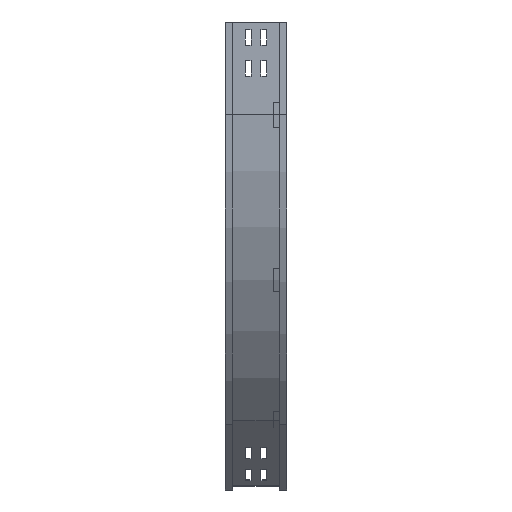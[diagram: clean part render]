
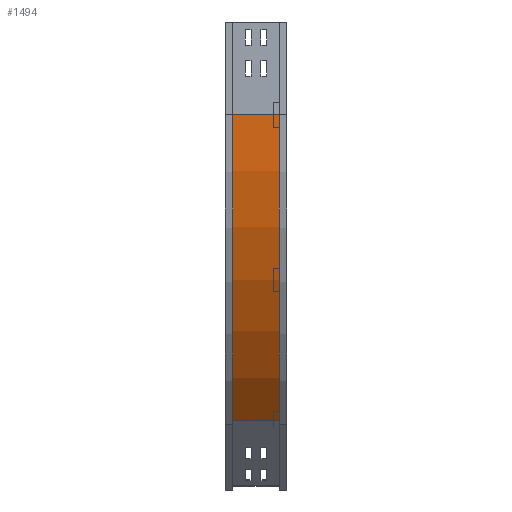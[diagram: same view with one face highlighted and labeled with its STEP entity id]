
A CAD part, left-side view. The second image highlights one B-rep face of the part: STEP entity #1494.
In plain terms, the highlighted cylindrical face has radius 700 mm (diameter 1400 mm), a partial arc.
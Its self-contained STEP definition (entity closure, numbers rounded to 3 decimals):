
#4 = ORIENTED_EDGE ( 'NONE', *, *, #1263, .F. ) ;
#14 = CARTESIAN_POINT ( 'NONE',  ( 9., 12., -150. ) ) ;
#37 = DIRECTION ( 'NONE',  ( 0., -1., 0. ) ) ;
#96 = ORIENTED_EDGE ( 'NONE', *, *, #1460, .F. ) ;
#510 = DIRECTION ( 'NONE',  ( -1., 0., 0. ) ) ;
#580 = VECTOR ( 'NONE', #1364, 1000. ) ;
#783 = CARTESIAN_POINT ( 'NONE',  ( 214.025, 88., -644.975 ) ) ;
#788 = DIRECTION ( 'NONE',  ( 0., -1., 0. ) ) ;
#1261 = CARTESIAN_POINT ( 'NONE',  ( 9., 88., -150. ) ) ;
#1263 = EDGE_CURVE ( 'NONE', #1469, #1979, #1386, .T. ) ;
#1364 = DIRECTION ( 'NONE',  ( 0., -1., 0. ) ) ;
#1386 = LINE ( 'NONE', #14, #580 ) ;
#1451 = DIRECTION ( 'NONE',  ( -1., 0., 0. ) ) ;
#1460 = EDGE_CURVE ( 'NONE', #1979, #3555, #3772, .T. ) ;
#1469 = VERTEX_POINT ( 'NONE', #1261 ) ;
#1494 = ADVANCED_FACE ( 'NONE', ( #2972 ), #1883, .T. ) ;
#1576 = ORIENTED_EDGE ( 'NONE', *, *, #3745, .T. ) ;
#1786 = CARTESIAN_POINT ( 'NONE',  ( 709., 12., -150. ) ) ;
#1838 = LINE ( 'NONE', #2564, #3737 ) ;
#1883 = CYLINDRICAL_SURFACE ( 'NONE', #1967, 700. ) ;
#1967 = AXIS2_PLACEMENT_3D ( 'NONE', #4381, #4302, #3677 ) ;
#1979 = VERTEX_POINT ( 'NONE', #4003 ) ;
#2151 = AXIS2_PLACEMENT_3D ( 'NONE', #3616, #4317, #510 ) ;
#2477 = AXIS2_PLACEMENT_3D ( 'NONE', #1786, #37, #1451 ) ;
#2564 = CARTESIAN_POINT ( 'NONE',  ( 214.025, 12., -644.975 ) ) ;
#2585 = CIRCLE ( 'NONE', #2151, 700. ) ;
#2792 = CARTESIAN_POINT ( 'NONE',  ( 214.025, 12., -644.975 ) ) ;
#2971 = ORIENTED_EDGE ( 'NONE', *, *, #3829, .T. ) ;
#2972 = FACE_OUTER_BOUND ( 'NONE', #3235, .T. ) ;
#3235 = EDGE_LOOP ( 'NONE', ( #96, #4, #2971, #1576 ) ) ;
#3555 = VERTEX_POINT ( 'NONE', #2792 ) ;
#3616 = CARTESIAN_POINT ( 'NONE',  ( 709., 88., -150. ) ) ;
#3677 = DIRECTION ( 'NONE',  ( 0., 0., -1. ) ) ;
#3737 = VECTOR ( 'NONE', #788, 1000. ) ;
#3745 = EDGE_CURVE ( 'NONE', #4234, #3555, #1838, .T. ) ;
#3772 = CIRCLE ( 'NONE', #2477, 700. ) ;
#3829 = EDGE_CURVE ( 'NONE', #1469, #4234, #2585, .T. ) ;
#4003 = CARTESIAN_POINT ( 'NONE',  ( 9., 12., -150. ) ) ;
#4234 = VERTEX_POINT ( 'NONE', #783 ) ;
#4302 = DIRECTION ( 'NONE',  ( 0., -1., 0. ) ) ;
#4317 = DIRECTION ( 'NONE',  ( 0., -1., 0. ) ) ;
#4381 = CARTESIAN_POINT ( 'NONE',  ( 709., 0., -150. ) ) ;
